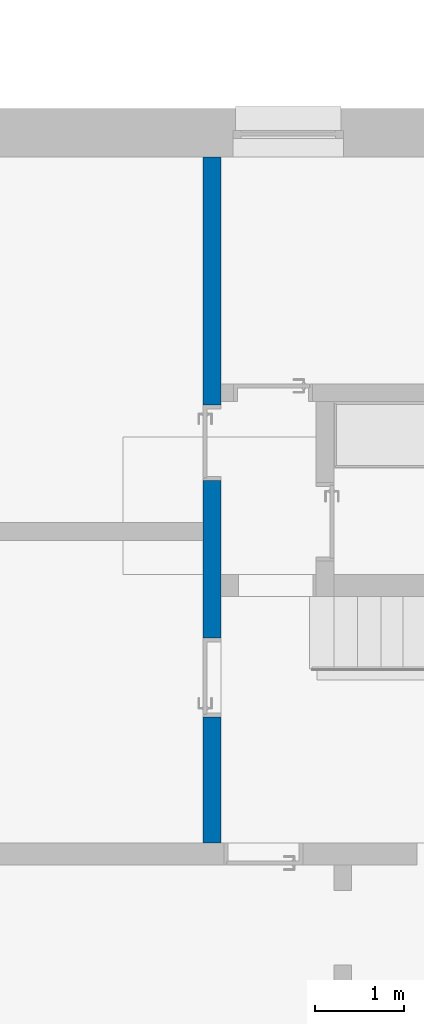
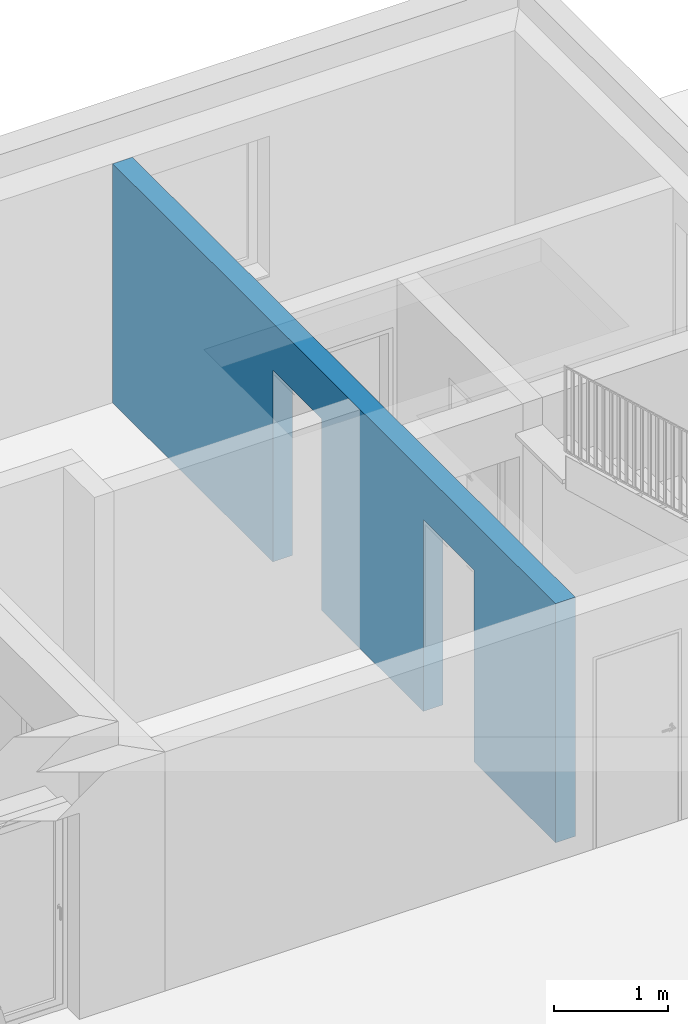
# One storey, part 2 of 18: 1 wall, 2 openings.
"""IFC2X3 building model written with IfcOpenShell, lengths in metres."""

from ifc_helpers import new_model, entity, si_unit, converted_unit, derived_unit, direction, frame, frame_2d, origin, place, context, subcontext, project, spatial, rectangle, extrude, material, layer, layer_set, layer_usage, type_object, element, save


model = new_model("IFC2X3")

# Units and contexts
model_context = context("Model", 3, precision=1e-05, world=origin(), true_north=direction((6.123233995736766e-17, 1.0)))
body_context = subcontext(model_context, "Body", "Model", "MODEL_VIEW")
ifc_project = project(units=[si_unit("LENGTHUNIT", "METRE"), si_unit("AREAUNIT", "SQUARE_METRE"), si_unit("VOLUMEUNIT", "CUBIC_METRE"), si_unit("POWERUNIT", "WATT"), derived_unit("USERDEFINED", [(si_unit("MASSUNIT", "GRAM", prefix="KILO"), 1), (si_unit("TIMEUNIT", "SECOND"), -3)]), derived_unit("THERMALRESISTANCEUNIT", [(si_unit("MASSUNIT", "GRAM", prefix="KILO"), -1), (si_unit("TIMEUNIT", "SECOND"), 3), (si_unit("THERMODYNAMICTEMPERATUREUNIT", "KELVIN"), 1)]), derived_unit("USERDEFINED", [(si_unit("MASSUNIT", "GRAM", prefix="KILO"), 1), (si_unit("TIMEUNIT", "SECOND"), -2), (si_unit("THERMODYNAMICTEMPERATUREUNIT", "KELVIN"), -1)]), derived_unit("THERMALTRANSMITTANCEUNIT", [(si_unit("MASSUNIT", "GRAM", prefix="KILO"), 1), (si_unit("TIMEUNIT", "SECOND"), -3), (si_unit("THERMODYNAMICTEMPERATUREUNIT", "KELVIN"), -1)]), converted_unit("PLANEANGLEUNIT", "DEGREE", entity("IfcPlaneAngleMeasure", 0.017453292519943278), si_unit("PLANEANGLEUNIT", "RADIAN"), dimensions=[0, 0, 0, 0, 0, 0, 0]), derived_unit("MOMENTOFINERTIAUNIT", [(si_unit("LENGTHUNIT", "METRE"), 4)])], contexts=[model_context])

# Site, building, storey
site_placement = place(None, origin())
site = spatial("IfcSite", under=ifc_project, at=site_placement, Name="Default", CompositionType="ELEMENT")
building_placement = place(site_placement, origin())
building = spatial("IfcBuilding", under=site, at=building_placement, CompositionType="ELEMENT")
storey_placement = place(building_placement, frame((0.0, 0.0, 2.6)))
storey = spatial("IfcBuildingStorey", under=building, at=storey_placement, Name="Erdgeschoss", CompositionType="ELEMENT", Elevation=2.6)

# Wall, openings
ifc_material = material(Name="Mauerwerk - Ziegel")
ifc_layer = layer(ifc_material, 0.2)
ifc_layer_set = layer_set([ifc_layer], Name="Basiswand:Ziegel 200")
ifc_layer_usage = layer_usage(ifc_layer_set, "AXIS2", "POSITIVE", -0.1)
wall_type = type_object("IfcWallType", Name="Basiswand:Ziegel 200", PredefinedType="STANDARD", material=ifc_layer_set)
wall_placement = place(storey_placement, frame((34.26875489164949, 28.042272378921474, 0.0), z_axis=(0.0, 0.0, 1.0), x_axis=(0.0, -1.0, 0.0)))
wall = element("IfcWallStandardCase", 1, at=wall_placement, inside=storey, type_object=wall_type, material=ifc_layer_usage, Name="Basiswand:Ziegel 200", ObjectType="Basiswand:Ziegel 200", context=body_context, shape_type="SweptSolid", body=[
    extrude(rectangle(XDim=7.739999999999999, YDim=0.19999999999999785, at=frame_2d((3.8699999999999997, -2.0122792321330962e-16), x_axis=(1.0, 0.0))), origin(), (0.0, 0.0, 1.0), 2.5500000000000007),
])
opening_1_placement = place(wall_placement, frame((3.650000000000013, 0.0999999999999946, -0.18000000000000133)))
element("IfcOpeningElement", 2, at=opening_1_placement, cuts=wall, Name="TU DF 1 - Rahmenstock flächenbündig:DL - 760 x 2000:1", ObjectType="Opening", context=body_context, shape_type="SweptSolid", body=[
    extrude(rectangle(XDim=2.224999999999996, YDim=0.8499999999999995, at=frame_2d((1.112499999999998, 0.4250000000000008), x_axis=(-1.0, 0.0))), frame((0.0, 0.0, 0.0), z_axis=(0.0, -1.0, 0.0), x_axis=(0.0, 0.0, 1.0)), (0.0, 0.0, 1.0), 0.2),
])
opening_2_placement = place(wall_placement, frame((6.320000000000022, 0.09999999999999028, -0.1800000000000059)))
element("IfcOpeningElement", 3, at=opening_2_placement, cuts=wall, Name="TU DF 1 - Rahmenstock flächenbündig:DL - 800 x 2000:1", ObjectType="Opening", context=body_context, shape_type="SweptSolid", body=[
    extrude(rectangle(XDim=2.2249999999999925, YDim=0.8899999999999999, at=frame_2d((1.1124999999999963, 0.44500000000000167), x_axis=(-1.0, 0.0))), frame((0.0, 0.0, 0.0), z_axis=(0.0, -1.0, 0.0), x_axis=(0.0, 0.0, 1.0)), (0.0, 0.0, 1.0), 0.2),
])

save(model, "model.ifc")
